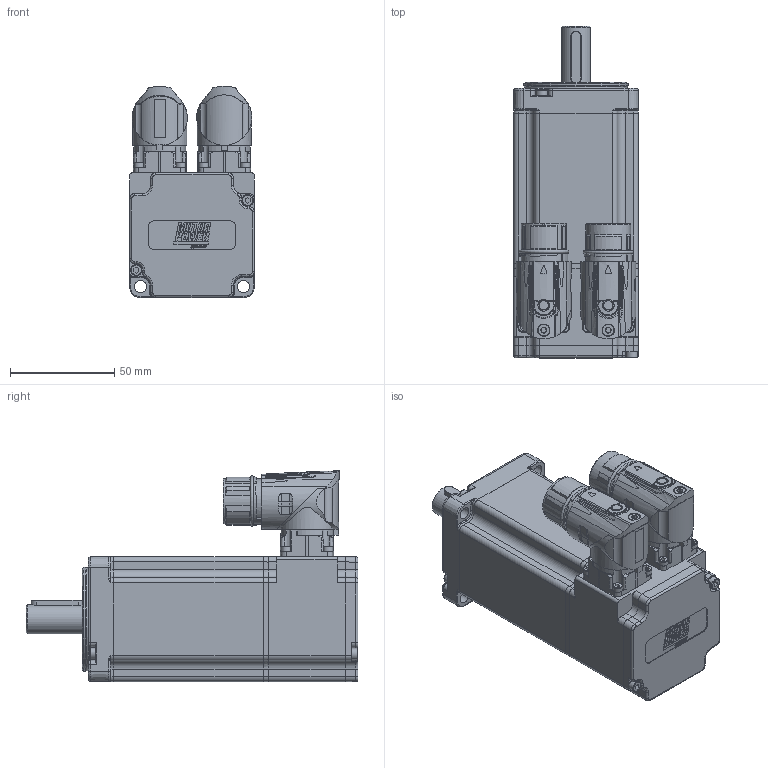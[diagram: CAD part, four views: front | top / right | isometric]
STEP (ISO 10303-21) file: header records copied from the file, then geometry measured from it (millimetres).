
FILE_DESCRIPTION(/* description */ ('Unknown'),/* implementation_level */ '2;1');
FILE_NAME(/* name */ 'TC4-60.2B.XX.X.3.M1.0.1.C2.39.00 Q0C134',/* time_stamp */ '2026-03-03T15:52:35+01:00',/* author */ ('Unknown'),/* organization */ ('Unknown'),/* preprocessor_version */ 'ST-DEVELOPER v19.4',/* originating_system */ 'Solid Edge',/* authorisation */ 'Unknown');
FILE_SCHEMA (('AUTOMOTIVE_DESIGN {1 0 10303 214 3 1 1}'));
Products named in the file (14): Q0C134 2B M1 VUOTO; 005911000171; 005119001310; 003155002235; 005113000400; 003103040220; 005911000192; 003107003285; 005911000495; 003251040722; 003151003164; 003003200300; 007117000456; 007117000454
Assembly tree (24 placements, depth 2):
  Q0C134 2B M1 VUOTO
    005911000171  x8
    005119001310
    003155002235
    005113000400
    003103040220
    005911000192  x2
    003107003285
    005911000495  x4
    003251040722
    003151003164
    003003200300
    007117000456
    007117000454
Bounding box: 60 x 159.5 x 101.5 mm (x, y, z)
Volume: 203298.2 mm3; surface area: 121748.5 mm2
Topology: 25 solids, 26 shells, 2320 faces, 5797 edges, 3696 vertices
Faces by surface type: plane 994, cylinder 543, bspline 333, cone 269, torus 134, sphere 47
Full cylindrical faces by diameter (mm): 0.5 x1, 1 x21, 1.2 x17, 1.4 x4, 2 x4, 2.013 x20, 2.459 x16, 2.5 x9, 2.8 x4, 3 x22, 3.2 x1, 3.5 x8, 4.134 x1, 4.5 x2, 4.7 x8, 5 x4, 5.25 x4, 5.3 x1, 5.5 x8, 5.8 x5, 5.9 x2, 6 x1, 6.8 x1, 9.99 x1, 10 x1, 13 x1, 14 x2, 14.99 x1, 15 x1, 15.2 x1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
Entity records: 83536 total; most frequent: CARTESIAN_POINT 23854, ORIENTED_EDGE 9830, DIRECTION 9153, EDGE_CURVE 4915, AXIS2_PLACEMENT_3D 3475, VERTEX_POINT 3360, FACE_BOUND 2809, EDGE_LOOP 2789
